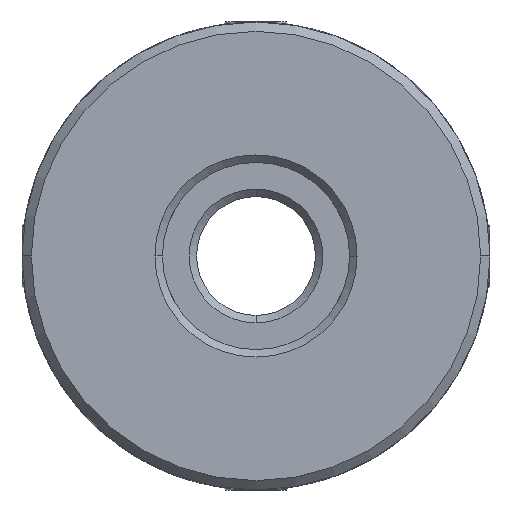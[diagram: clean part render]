
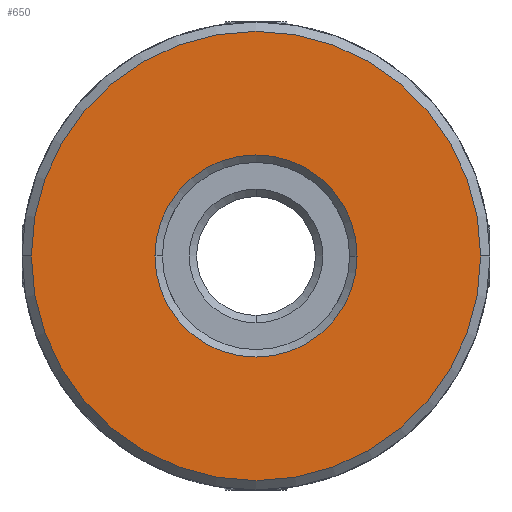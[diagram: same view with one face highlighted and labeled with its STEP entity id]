
A CAD part, front view. The second image highlights one B-rep face of the part: STEP entity #650.
In plain terms, the highlighted planar face has unit normal (0, -1, 0).
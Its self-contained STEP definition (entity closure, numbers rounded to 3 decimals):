
#186 = DIRECTION ( 'NONE',  ( 0., -1., 0. ) ) ;
#363 = FACE_BOUND ( 'NONE', #4702, .T. ) ;
#650 = ADVANCED_FACE ( 'NONE', ( #2273, #363 ), #4536, .F. ) ;
#745 = DIRECTION ( 'NONE',  ( 0., 1., 0. ) ) ;
#1027 = CARTESIAN_POINT ( 'NONE',  ( 0., -28., 0. ) ) ;
#1163 = EDGE_CURVE ( 'NONE', #8382, #2702, #6878, .T. ) ;
#1169 = CARTESIAN_POINT ( 'NONE',  ( -19.597, -28., -50. ) ) ;
#1847 = ORIENTED_EDGE ( 'NONE', *, *, #7106, .T. ) ;
#1956 = CIRCLE ( 'NONE', #8530, 5.4 ) ;
#2244 = CARTESIAN_POINT ( 'NONE',  ( 12., -28., 0. ) ) ;
#2273 = FACE_OUTER_BOUND ( 'NONE', #8277, .T. ) ;
#2285 = EDGE_CURVE ( 'NONE', #2702, #8382, #2827, .T. ) ;
#2628 = CARTESIAN_POINT ( 'NONE',  ( -12., -28., 0. ) ) ;
#2702 = VERTEX_POINT ( 'NONE', #2244 ) ;
#2827 = CIRCLE ( 'NONE', #5864, 12. ) ;
#3266 = DIRECTION ( 'NONE',  ( 0., -1., 0. ) ) ;
#3365 = AXIS2_PLACEMENT_3D ( 'NONE', #1169, #7136, #5681 ) ;
#3831 = VERTEX_POINT ( 'NONE', #5878 ) ;
#3868 = DIRECTION ( 'NONE',  ( -1., 0., 0. ) ) ;
#4158 = VERTEX_POINT ( 'NONE', #7889 ) ;
#4536 = PLANE ( 'NONE',  #3365 ) ;
#4625 = CARTESIAN_POINT ( 'NONE',  ( 0., -28., 0. ) ) ;
#4702 = EDGE_LOOP ( 'NONE', ( #6693, #1847 ) ) ;
#5145 = EDGE_CURVE ( 'NONE', #4158, #3831, #9096, .T. ) ;
#5681 = DIRECTION ( 'NONE',  ( -1., 0., 0. ) ) ;
#5864 = AXIS2_PLACEMENT_3D ( 'NONE', #1027, #186, #9423 ) ;
#5878 = CARTESIAN_POINT ( 'NONE',  ( -5.4, -28., 0. ) ) ;
#6037 = DIRECTION ( 'NONE',  ( -1., 0., 0. ) ) ;
#6468 = ORIENTED_EDGE ( 'NONE', *, *, #2285, .T. ) ;
#6693 = ORIENTED_EDGE ( 'NONE', *, *, #5145, .T. ) ;
#6698 = CARTESIAN_POINT ( 'NONE',  ( 0., -28., 0. ) ) ;
#6878 = CIRCLE ( 'NONE', #9339, 12. ) ;
#7106 = EDGE_CURVE ( 'NONE', #3831, #4158, #1956, .T. ) ;
#7136 = DIRECTION ( 'NONE',  ( 0., 1., 0. ) ) ;
#7232 = AXIS2_PLACEMENT_3D ( 'NONE', #8466, #745, #6037 ) ;
#7493 = DIRECTION ( 'NONE',  ( 0., 1., 0. ) ) ;
#7889 = CARTESIAN_POINT ( 'NONE',  ( 5.4, -28., 0. ) ) ;
#8277 = EDGE_LOOP ( 'NONE', ( #9108, #6468 ) ) ;
#8382 = VERTEX_POINT ( 'NONE', #2628 ) ;
#8466 = CARTESIAN_POINT ( 'NONE',  ( 0., -28., 0. ) ) ;
#8530 = AXIS2_PLACEMENT_3D ( 'NONE', #6698, #7493, #9825 ) ;
#9096 = CIRCLE ( 'NONE', #7232, 5.4 ) ;
#9108 = ORIENTED_EDGE ( 'NONE', *, *, #1163, .T. ) ;
#9339 = AXIS2_PLACEMENT_3D ( 'NONE', #4625, #3266, #3868 ) ;
#9423 = DIRECTION ( 'NONE',  ( -1., 0., 0. ) ) ;
#9825 = DIRECTION ( 'NONE',  ( -1., 0., 0. ) ) ;
